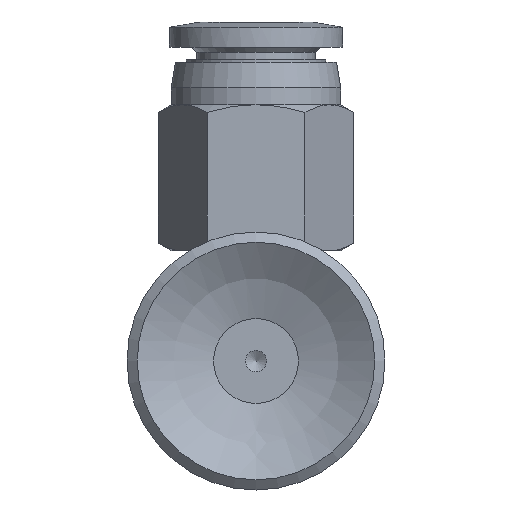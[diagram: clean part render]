
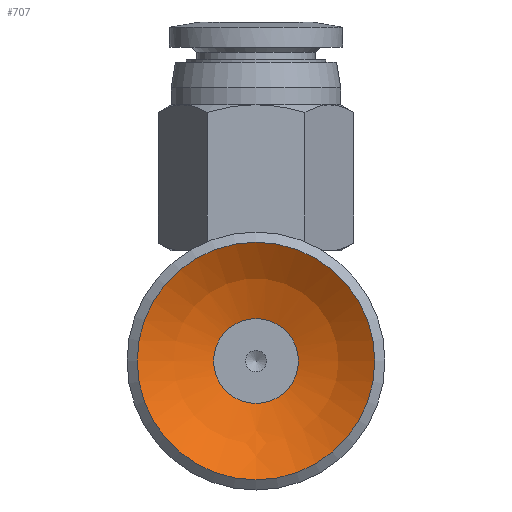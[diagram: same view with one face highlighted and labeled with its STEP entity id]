
A CAD part, front view. The second image highlights one B-rep face of the part: STEP entity #707.
In plain terms, the highlighted spherical face has radius 11.5 mm.
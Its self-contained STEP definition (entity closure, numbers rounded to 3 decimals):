
#707=ADVANCED_FACE('',(#1242,#1243),#1244,.F.);
#1242=FACE_OUTER_BOUND('',#1902,.T.);
#1243=FACE_OUTER_BOUND('',#1903,.T.);
#1244=SPHERICAL_SURFACE('',#1904,11.5);
#1902=EDGE_LOOP('',(#3659));
#1903=EDGE_LOOP('',(#3660));
#1904=AXIS2_PLACEMENT_3D('',#3661,#3662,#3663);
#3659=ORIENTED_EDGE('',*,*,#4568,.T.);
#3660=ORIENTED_EDGE('',*,*,#4612,.F.);
#3661=CARTESIAN_POINT('',(0.001,9.494,-22.735));
#3662=DIRECTION('',(0.0,0.,-1.0));
#3663=DIRECTION('',(1.0,0.0,0.0));
#4568=EDGE_CURVE('',#5371,#5371,#5372,.T.);
#4612=EDGE_CURVE('',#5444,#5444,#5445,.T.);
#5371=VERTEX_POINT('',#7358);
#5372=CIRCLE('',#7359,7.0);
#5444=VERTEX_POINT('',#7431);
#5445=CIRCLE('',#7432,2.5);
#7358=CARTESIAN_POINT('',(0.001,16.494,-13.611));
#7359=AXIS2_PLACEMENT_3D('',#8510,#8511,#8512);
#7431=CARTESIAN_POINT('',(0.001,11.994,-11.51));
#7432=AXIS2_PLACEMENT_3D('',#8642,#8643,#8644);
#8510=CARTESIAN_POINT('',(0.001,9.494,-13.611));
#8511=DIRECTION('',(0.0,0.,-1.0));
#8512=DIRECTION('',(0.0,1.0,0.));
#8642=CARTESIAN_POINT('',(0.001,9.494,-11.51));
#8643=DIRECTION('',(0.0,0.,-1.0));
#8644=DIRECTION('',(0.0,1.0,0.));
